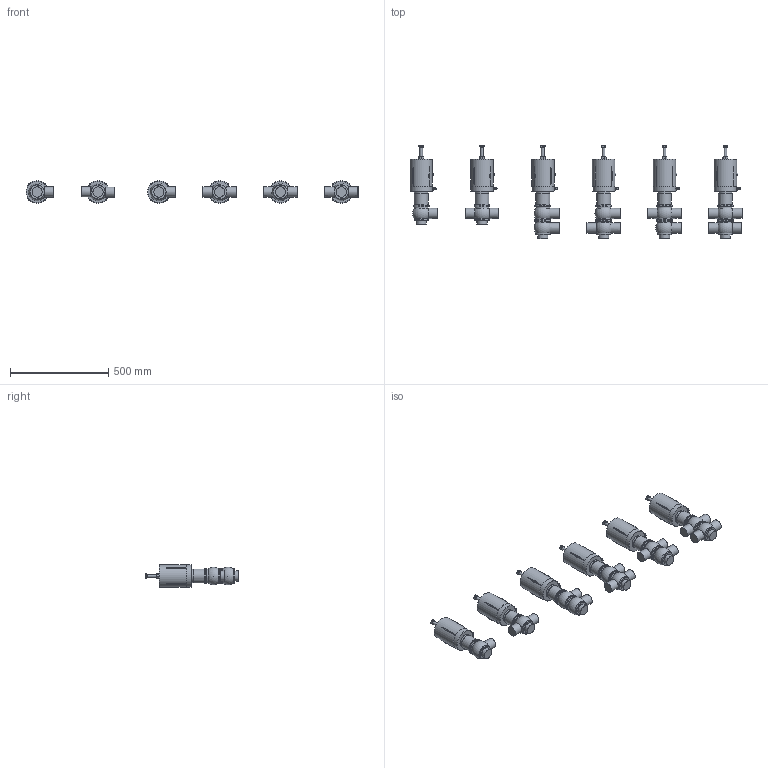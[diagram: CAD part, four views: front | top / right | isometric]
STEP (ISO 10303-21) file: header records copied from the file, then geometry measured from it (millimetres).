
FILE_DESCRIPTION((''),'2;1');
FILE_NAME('\\BV-SRV1\Ufficio tecnico\cad3d\PNEUMATICA\Ing1-1\pne bbzp e derivate\BBZS5\BBZS5-DN050-CIL108-SAL.iam.step','2009-10-19T10:17:49',(''),(''),'Autodesk Inventor 2010','Autodesk Inventor 2010','');
FILE_SCHEMA(('AUTOMOTIVE_DESIGN { 1 0 10303 214 1 1 1 1 }'));
Length unit declared in the file: millimetre
Products named in the file (7): BBZS5-DN050-CIL108-SAL; Assemblaggio-DN050; COR-INF-L-SAL-DN50; COR-INF-T-SAL-DN50; COR-SUP-L-SAL-DN50; COR-SUP-T-SAL-DN50; cil 108 tarabile
Assembly tree (22 placements, depth 2):
  BBZS5-DN050-CIL108-SAL
    Assemblaggio-DN050  x6
    COR-INF-L-SAL-DN50  x3
    COR-INF-T-SAL-DN50  x3
    COR-SUP-L-SAL-DN50  x2
    COR-SUP-T-SAL-DN50  x2
    cil 108 tarabile  x6
Bounding box: 1692.03 x 475.2 x 114.23 mm (x, y, z)
Volume: 17526360.2 mm3; surface area: 1119355 mm2
Topology: 28 solids, 28 shells, 1259 faces, 3068 edges, 1836 vertices
Faces by surface type: plane 473, cylinder 283, cone 260, bspline 114, sphere 87, torus 42
Full cylindrical faces by diameter (mm): 4.9 x6, 6 x12, 7 x6, 8.3 x6, 10 x6, 11 x6, 11.5 x6, 14 x6, 19.37 x6, 52 x21, 69 x6, 71 x6, 73 x26, 81 x20, 113.5 x6, 114.5 x6
Entity records: 7334 total; most frequent: CARTESIAN_POINT 1969, DIRECTION 1058, ORIENTED_EDGE 934, EDGE_CURVE 467, AXIS2_PLACEMENT_3D 451, EDGE_LOOP 331, VERTEX_POINT 316, FACE_OUTER_BOUND 240
